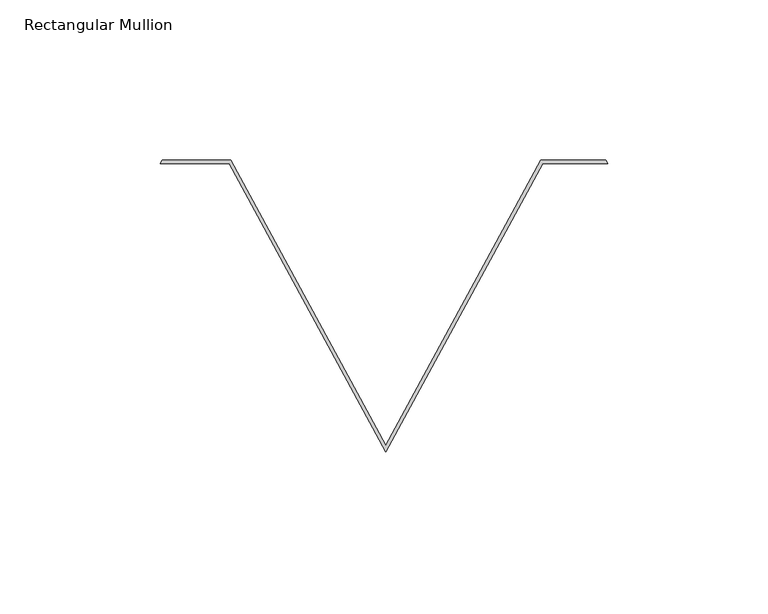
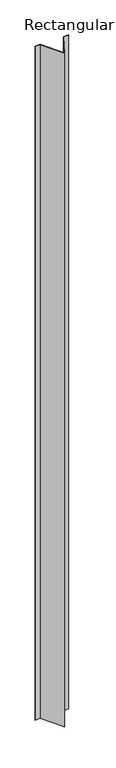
"""IFC4 building model written with IfcOpenShell, lengths in millimetres: member geometry, Rectangular Mullion : CD_NINELINE_Pleat End."""

from ifc_helpers import new_model, si_unit, frame, origin, place, context, project, spatial, polyline, outline, extrude, source, transform, mapped, element, save


def rectangular_mullion_84c57f47(model_context):
    return source(origin(), model_context, "Body", "SweptSolid", [
        extrude(outline(polyline([(-0.7389709, 0.0), (20.7267709, 0.0), (68.9956637, -88.9018164), (117.2645564, 0.0), (137.5910313, 0.0), (138.133987, -1.0), (117.8617291, -1.0), (68.9957161, -91.0), (20.1297031, -1.0), (-1.281917, -1.0), (-0.7389709, 0.0)])), frame((0.0, 0.0, -2947.0), z_axis=(0.0, 0.0, 1.0), x_axis=(1.0, 0.0, 0.0)), (0.0, 0.0, 1.0), 2947.0),
    ])


if __name__ == "__main__":
    model = new_model("IFC4")
    model_context = context("Model", 3, world=origin())
    ifc_project = project(units=[si_unit("LENGTHUNIT", "METRE", prefix="MILLI")], contexts=[model_context])
    site = spatial("IfcSite", under=ifc_project)
    building = spatial("IfcBuilding", under=site)
    placement = place(None, origin())
    rectangular_mullion_shape = rectangular_mullion_84c57f47(model_context)
    element("IfcMember", 1, ObjectType="Rectangular Mullion : CD_NINELINE_Pleat End", at=placement, inside=building, context=model_context, shape_type="MappedRepresentation", body=[
        mapped(rectangular_mullion_shape, transform((0.0, 0.0, 0.0), x_axis=(1.0, 0.0, 0.0), y_axis=(0.0, 1.0, 0.0), z_axis=(0.0, 0.0, 1.0))),
    ])
    save(model, "model.ifc")
